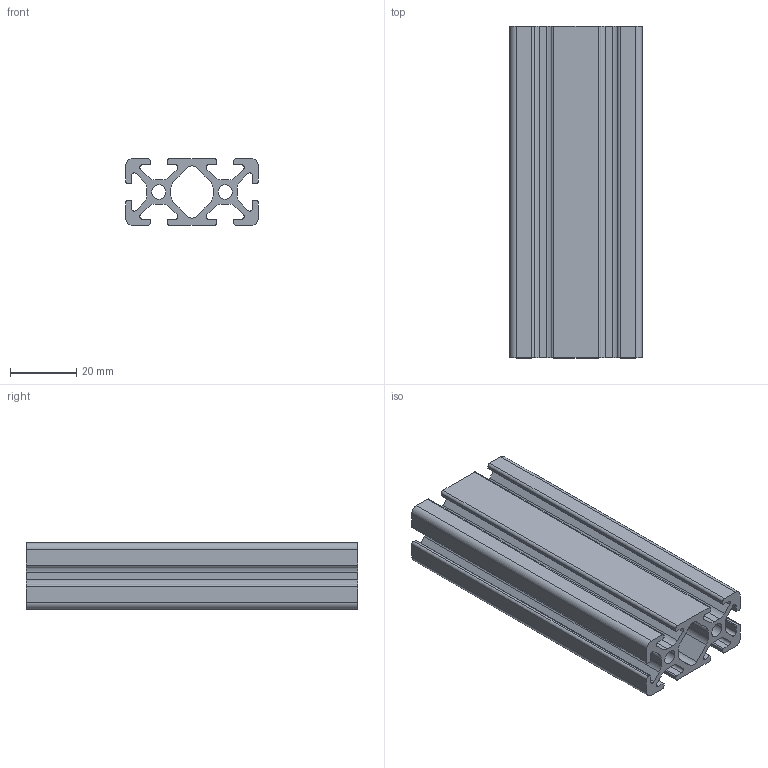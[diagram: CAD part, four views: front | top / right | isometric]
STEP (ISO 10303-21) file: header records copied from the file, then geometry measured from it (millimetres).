
FILE_DESCRIPTION(('STEP AP214'),'1');
FILE_NAME('cctmp_7597EC9A-78E1-4E4D-B789-367E117FA9C3_2019_8_13_13_49_54_953..stp','2019-08-13T11:49:55',('item Industrietechnik GmbH'),('CADClick - www.CADClick.com'),'Spatial InterOp 3D',' ','unknown authorization');
FILE_SCHEMA(('AUTOMOTIVE_DESIGN'));
Length unit declared in the file: millimetre
Products named in the file (1): item_0037004_Profil 5 40x20_L=100
Bounding box: 40 x 100 x 20 mm (x, y, z)
Volume: 33169.9 mm3; surface area: 31197.4 mm2
Topology: 1 solids, 1 shells, 122 faces, 360 edges, 240 vertices
Faces by surface type: cylinder 62, plane 60
Entity records: 5120 total; most frequent: DIRECTION 730, CARTESIAN_POINT 723, ORIENTED_EDGE 720, EDGE_CURVE 360, AXIS2_PLACEMENT_3D 247, VERTEX_POINT 240, LINE 236, VECTOR 236
